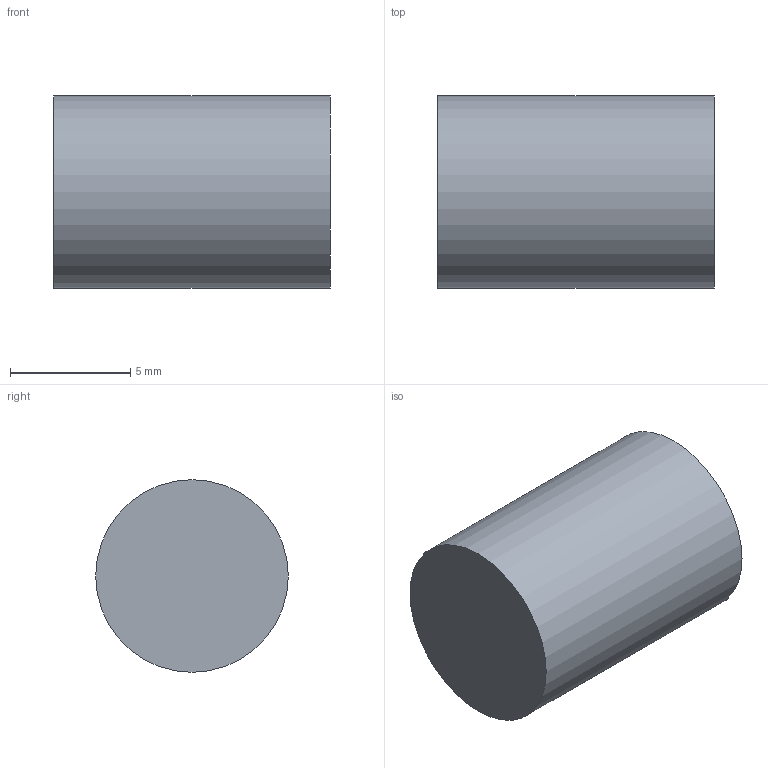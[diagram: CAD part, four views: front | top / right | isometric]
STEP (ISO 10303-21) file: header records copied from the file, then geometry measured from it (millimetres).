
FILE_DESCRIPTION(('Open CASCADE Model'),'2;1');
FILE_NAME('Open CASCADE Shape Model','2026-11-23T18:10:06',('Author'),( 'Open CASCADE'),'Open CASCADE STEP processor 8.0','build123d', 'Unknown');
FILE_SCHEMA(('AUTOMOTIVE_DESIGN { 1 0 10303 214 1 1 1 1 }'));
Length unit declared in the file: millimetre
Products named in the file (2): =>[0:1:1:2]; COMPOUND
Assembly tree (1 placements, depth 2):
  =>[0:1:1:2]
    COMPOUND
Bounding box: 11.5 x 8 x 8 mm (x, y, z)
Volume: 578.1 mm3; surface area: 389.6 mm2
Topology: 1 solids, 1 shells, 3 faces, 3 edges, 2 vertices
Faces by surface type: plane 2, cylinder 1
Full cylindrical faces by diameter (mm): 8 x1
Entity records: 126 total; most frequent: DIRECTION 21, CARTESIAN_POINT 16, AXIS2_PLACEMENT_3D 7, ORIENTED_EDGE 6, PCURVE 6, DEFINITIONAL_REPRESENTATION 6, LINE 5, VECTOR 5
